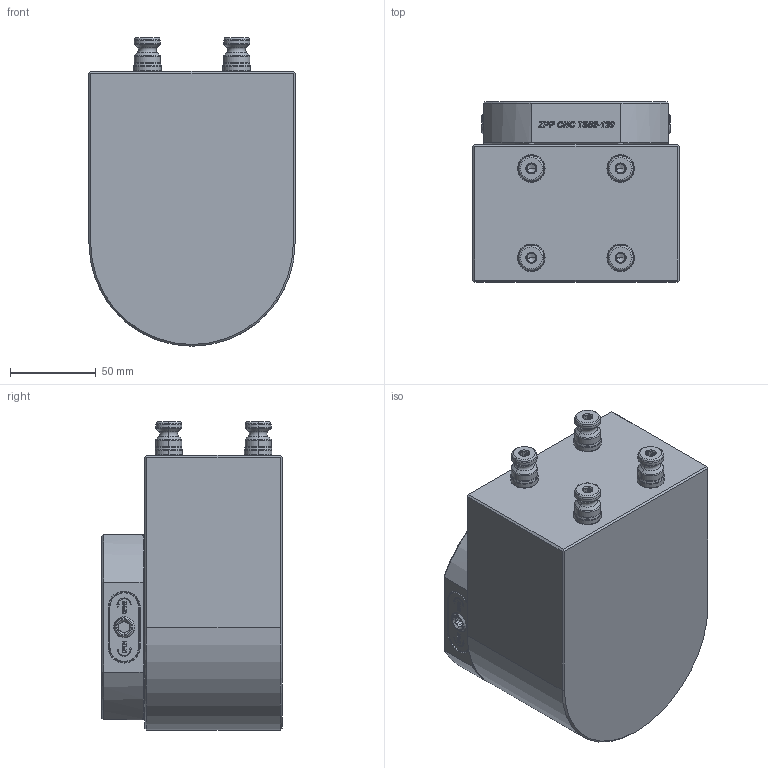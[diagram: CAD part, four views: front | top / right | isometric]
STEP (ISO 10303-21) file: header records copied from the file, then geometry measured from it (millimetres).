
FILE_DESCRIPTION((''),'2;1');
FILE_NAME('TS52-120R','2023-11-22T16:23:57',('XF'),(''),'CREO PARAMETRIC BY PTC INC, 2022073','CREO PARAMETRIC BY PTC INC, 2022073','');
FILE_SCHEMA(('CONFIG_CONTROL_DESIGN'));
Products named in the file (1): TS52-120R
Bounding box: 120 x 105 x 179.56 mm (x, y, z)
Volume: 1654129.4 mm3; surface area: 104716 mm2
Topology: 3 solids, 16 shells, 3773 faces, 9627 edges, 6214 vertices
Faces by surface type: plane 1682, extrusion 1012, cone 730, cylinder 235, torus 96, bspline 18
Entity records: 118986 total; most frequent: CARTESIAN_POINT 30691, ORIENTED_EDGE 19206, DIRECTION 15577, EDGE_CURVE 9603, VECTOR 6703, VERTEX_POINT 6214, LINE 5691, AXIS2_PLACEMENT_3D 4437
